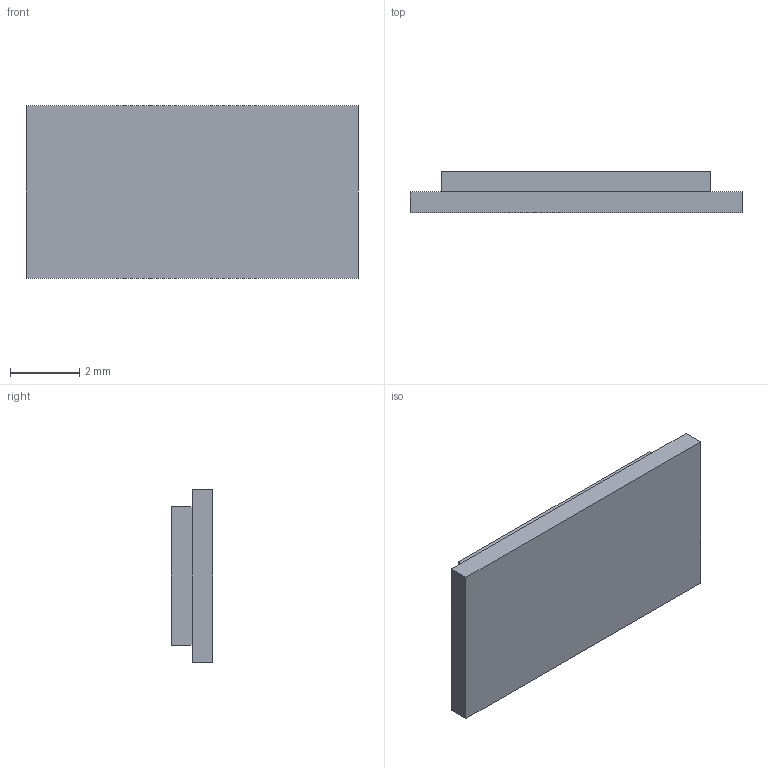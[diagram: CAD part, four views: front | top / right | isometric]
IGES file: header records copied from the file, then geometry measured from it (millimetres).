
Start section:  PTC IGES file: amp-2-353512_prt.igs
Global section: file name: amp-2-353512_prt.igs; native system: Pro/ENGINEER by Parametric Technology Corporation; preprocessor: 2000030; author: ECaille; organization: Unknown; date: 000803.091919; units: millimetre
Bounding box: 9.6 x 1.2 x 5 mm (x, y, z)
Surface area: 127.7 mm2 (no closed solid volume)
Topology: 0 solids, 0 shells, 11 faces, 76 edges, 104 vertices
Faces by surface type: bspline 11
